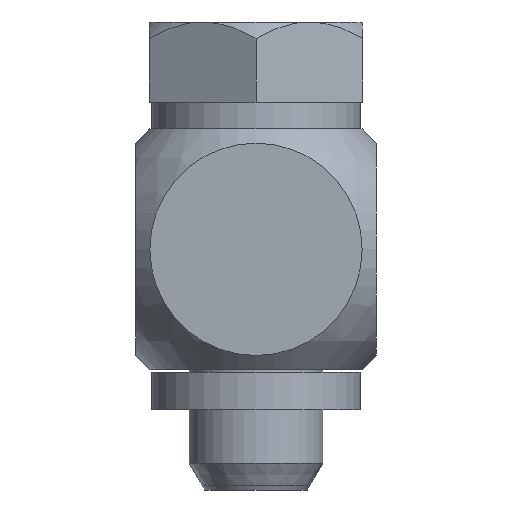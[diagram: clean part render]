
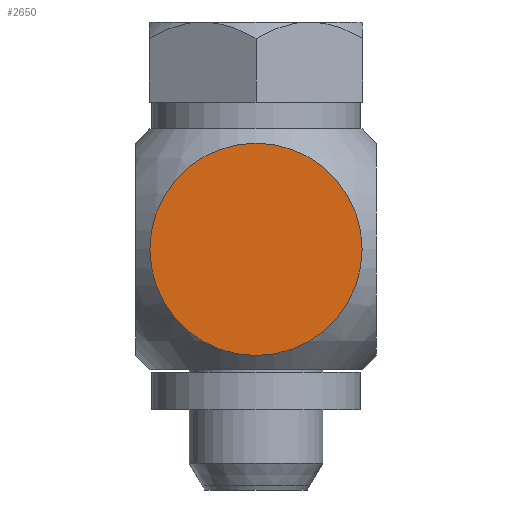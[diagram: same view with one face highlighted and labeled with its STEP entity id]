
A CAD part, left-side view. The second image highlights one B-rep face of the part: STEP entity #2650.
In plain terms, the highlighted planar face has unit normal (-1, 0, 0).
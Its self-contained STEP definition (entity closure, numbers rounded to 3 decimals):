
#2650=ADVANCED_FACE('', (#2660), #2670, .T.);
#9260=AXIS2_PLACEMENT_3D('Ax2Pl3d', #9270, #9280, #9290);
#9300=AXIS2_PLACEMENT_3D('Ax2Pl3d', #9310, #9320, #9330);
#9270=CARTESIAN_POINT('HicPkt', (3.903,7.436,
13.885));
#9310=CARTESIAN_POINT('HicPkt', (3.903,7.436,
9.916));
#46440=CARTESIAN_POINT('', (3.903,3.467,9.916));
#47310=CIRCLE('Circle', #9300, 3.969);
#9280=DIRECTION('Axis', (-1.,0.,0.)
);
#9290=DIRECTION('RefDirection', (0.,
0.,-1.));
#9320=DIRECTION('Axis', (-1.,0.,0.))
;
#9330=DIRECTION('RefDirection', (0.,
0.,-1.));
#53580=EDGE_CURVE('', #53590, #53590, #47310, .T.);
#57150=EDGE_LOOP('Edge_loop', (#57160));
#2660=FACE_OUTER_BOUND('Face_outer_bound', #57150, .T.);
#57160=ORIENTED_EDGE('', *, *, #53580, .T.);
#2670=PLANE('Plane', #9260);
#53590=VERTEX_POINT('', #46440);
